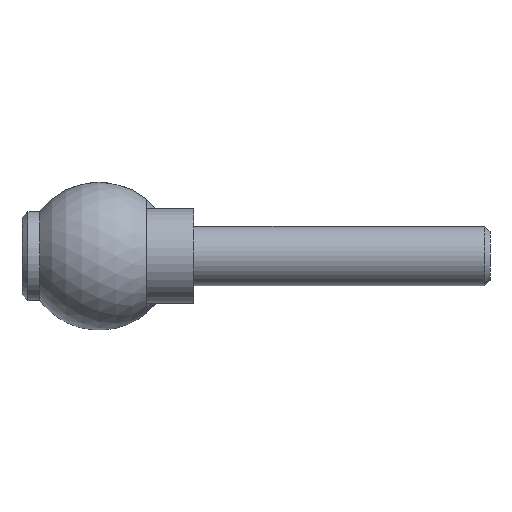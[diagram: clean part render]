
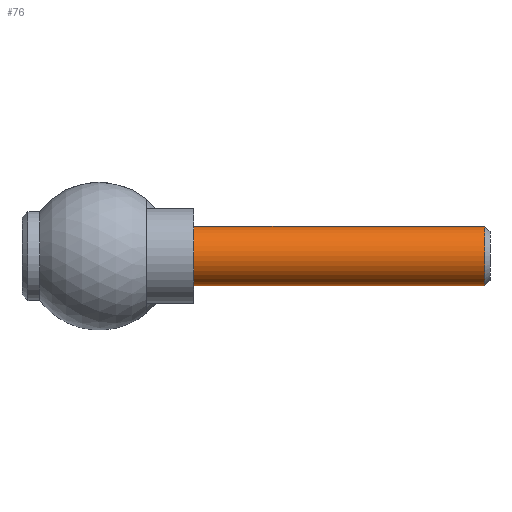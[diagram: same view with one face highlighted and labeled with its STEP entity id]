
A CAD part, left-side view. The second image highlights one B-rep face of the part: STEP entity #76.
In plain terms, the highlighted cylindrical face has radius 5 mm (diameter 10 mm), a full revolution.
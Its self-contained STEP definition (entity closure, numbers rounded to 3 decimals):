
#76 = ADVANCED_FACE( '', ( #92, #93 ), #94, .T. );
#92 = FACE_OUTER_BOUND( '', #130, .T. );
#93 = FACE_OUTER_BOUND( '', #131, .T. );
#94 = CYLINDRICAL_SURFACE( '', #132, 5. );
#130 = EDGE_LOOP( '', ( #170 ) );
#131 = EDGE_LOOP( '', ( #171 ) );
#132 = AXIS2_PLACEMENT_3D( '', #172, #173, #174 );
#170 = ORIENTED_EDGE( '', *, *, #230, .F. );
#171 = ORIENTED_EDGE( '', *, *, #231, .T. );
#172 = CARTESIAN_POINT( '', ( 0., -50., 0. ) );
#173 = DIRECTION( '', ( 0., 1., 0. ) );
#174 = DIRECTION( '', ( 0., 0., -1. ) );
#230 = EDGE_CURVE( '', #244, #244, #245, .T. );
#231 = EDGE_CURVE( '', #246, #246, #247, .T. );
#244 = VERTEX_POINT( '', #268 );
#245 = CIRCLE( '', #269, 5. );
#246 = VERTEX_POINT( '', #270 );
#247 = CIRCLE( '', #271, 5. );
#268 = CARTESIAN_POINT( '', ( 0., -49.08, -5. ) );
#269 = AXIS2_PLACEMENT_3D( '', #293, #294, #295 );
#270 = CARTESIAN_POINT( '', ( 0., 0., -5. ) );
#271 = AXIS2_PLACEMENT_3D( '', #296, #297, #298 );
#293 = CARTESIAN_POINT( '', ( 0., -49.08, 0. ) );
#294 = DIRECTION( '', ( 0., -1., 0. ) );
#295 = DIRECTION( '', ( 0., 0., -1. ) );
#296 = CARTESIAN_POINT( '', ( 0., 0., 0. ) );
#297 = DIRECTION( '', ( 0., -1., 0. ) );
#298 = DIRECTION( '', ( 0., 0., -1. ) );
